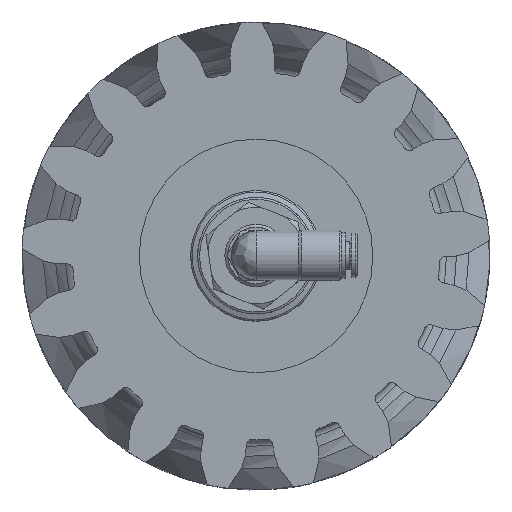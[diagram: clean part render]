
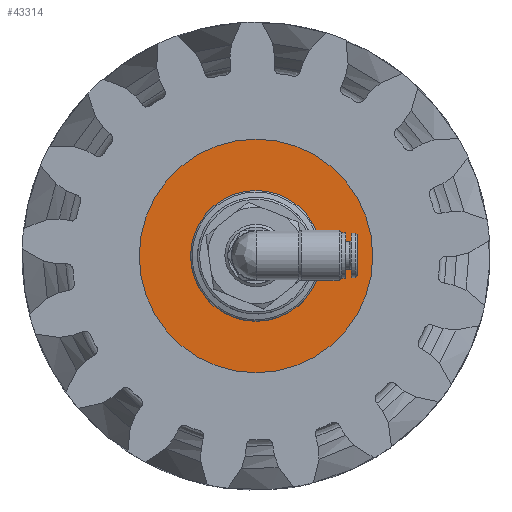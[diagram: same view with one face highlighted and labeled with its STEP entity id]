
A CAD part, top view. The second image highlights one B-rep face of the part: STEP entity #43314.
In plain terms, the highlighted planar face has unit normal (0, 0, 1) as drawn and (0, 1, 0) by its records, which use the part's own axes.
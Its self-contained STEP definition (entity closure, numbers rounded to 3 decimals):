
#9144 = AXIS2_PLACEMENT_3D ( 'NONE', #56739, #33967, #34855 ) ;
#10151 = CARTESIAN_POINT ( 'NONE',  ( 0., 0.6, 30. ) ) ;
#12117 = FACE_OUTER_BOUND ( 'NONE', #49057, .T. ) ;
#16502 = EDGE_CURVE ( 'NONE', #31131, #31131, #21687, .T. ) ;
#16624 = ORIENTED_EDGE ( 'NONE', *, *, #37544, .T. ) ;
#16626 = DIRECTION ( 'NONE',  ( 0., 0., -1. ) ) ;
#21687 = CIRCLE ( 'NONE', #24580, 16.8 ) ;
#22135 = CARTESIAN_POINT ( 'NONE',  ( 0., 0.6, 16.8 ) ) ;
#22690 = EDGE_LOOP ( 'NONE', ( #34808 ) ) ;
#24341 = AXIS2_PLACEMENT_3D ( 'NONE', #30380, #43013, #16626 ) ;
#24580 = AXIS2_PLACEMENT_3D ( 'NONE', #32839, #50268, #51143 ) ;
#29781 = FACE_BOUND ( 'NONE', #22690, .T. ) ;
#30380 = CARTESIAN_POINT ( 'NONE',  ( 30., 0.6, 0. ) ) ;
#31131 = VERTEX_POINT ( 'NONE', #22135 ) ;
#32839 = CARTESIAN_POINT ( 'NONE',  ( 0., 0.6, 0. ) ) ;
#33967 = DIRECTION ( 'NONE',  ( 0., 1., 0. ) ) ;
#34808 = ORIENTED_EDGE ( 'NONE', *, *, #16502, .F. ) ;
#34855 = DIRECTION ( 'NONE',  ( 0., 0., 1. ) ) ;
#37544 = EDGE_CURVE ( 'NONE', #42499, #42499, #51221, .T. ) ;
#42499 = VERTEX_POINT ( 'NONE', #10151 ) ;
#43013 = DIRECTION ( 'NONE',  ( 0., -1., 0. ) ) ;
#43314 = ADVANCED_FACE ( 'NONE', ( #29781, #12117 ), #48095, .F. ) ;
#48095 = PLANE ( 'NONE',  #24341 ) ;
#49057 = EDGE_LOOP ( 'NONE', ( #16624 ) ) ;
#50268 = DIRECTION ( 'NONE',  ( 0., 1., 0. ) ) ;
#51143 = DIRECTION ( 'NONE',  ( 0., 0., 1. ) ) ;
#51221 = CIRCLE ( 'NONE', #9144, 30. ) ;
#56739 = CARTESIAN_POINT ( 'NONE',  ( 0., 0.6, 0. ) ) ;
